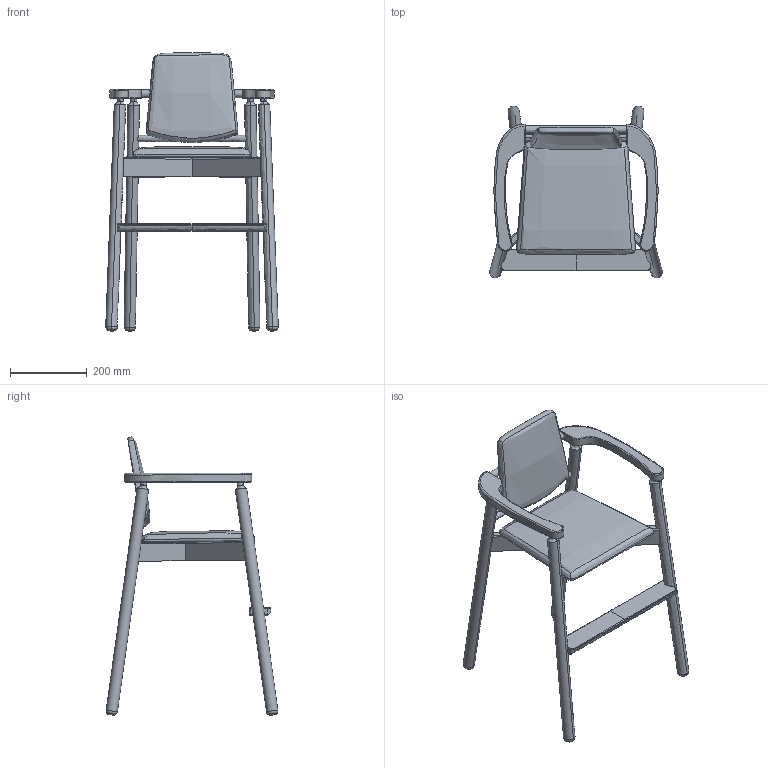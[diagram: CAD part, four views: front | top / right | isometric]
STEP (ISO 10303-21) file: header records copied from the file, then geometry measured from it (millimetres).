
FILE_DESCRIPTION(/* description */ (''),/* implementation_level */ '2;1');
FILE_NAME(/* name */ 'kinoshita_baobabaland_k104',/* time_stamp */ '2025-03-01T23:41:54+09:00',/* author */ (''),/* organization */ (''),/* preprocessor_version */ 'ST-DEVELOPER v16.5',/* originating_system */ '',/* authorisation */ '');
FILE_SCHEMA (('AUTOMOTIVE_DESIGN'));
Length unit declared in the file: millimetre
Products named in the file (1): Document
Bounding box: 449.51 x 447.5 x 724.93 mm (x, y, z)
Volume: 3488995.2 mm3; surface area: 801938.7 mm2
Topology: 2 solids, 3 shells, 184 faces, 439 edges, 243 vertices
Faces by surface type: bspline 151, plane 33
Entity records: 13101 total; most frequent: CARTESIAN_POINT 10670, ORIENTED_EDGE 831, EDGE_CURVE 417, VERTEX_POINT 243, EDGE_LOOP 200, B_SPLINE_CURVE_WITH_KNOTS 200, ADVANCED_FACE 184, FACE_OUTER_BOUND 184
